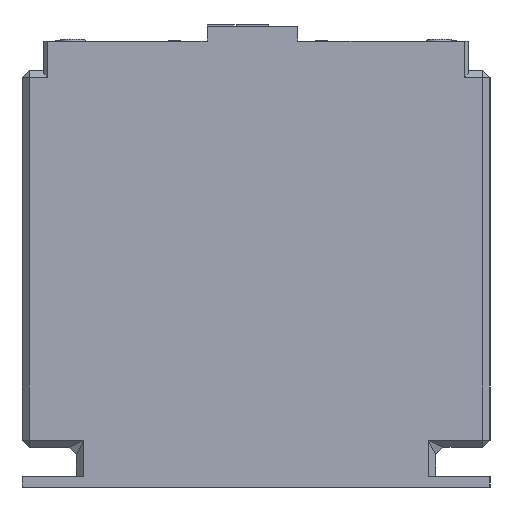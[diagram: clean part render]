
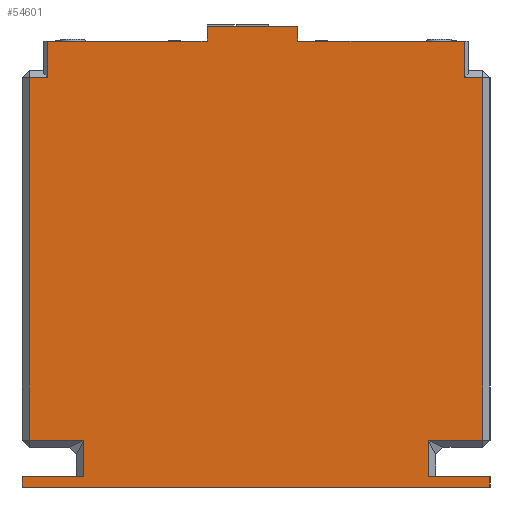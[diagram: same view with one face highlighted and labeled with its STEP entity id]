
A CAD part, left-side view. The second image highlights one B-rep face of the part: STEP entity #54601.
In plain terms, the highlighted planar face has unit normal (-1, 0, 0).
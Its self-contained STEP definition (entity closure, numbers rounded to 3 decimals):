
#6223=FACE_OUTER_BOUND('',#9419,.T.);
#9419=EDGE_LOOP('',(#46403,#46404,#46405,#46406,#46407,#46408,#46409,#46410,
#46411,#46412,#46413,#46414,#46415,#46416,#46417,#46418,#46419,#46420,#46421,
#46422));
#12658=LINE('',#82699,#18102);
#12832=LINE('',#83571,#18276);
#14602=LINE('',#94314,#20046);
#14614=LINE('',#94338,#20058);
#14615=LINE('',#94341,#20059);
#14616=LINE('',#94343,#20060);
#14617=LINE('',#94344,#20061);
#14618=LINE('',#94346,#20062);
#14619=LINE('',#94348,#20063);
#14620=LINE('',#94350,#20064);
#14621=LINE('',#94352,#20065);
#14622=LINE('',#94354,#20066);
#14623=LINE('',#94356,#20067);
#14624=LINE('',#94358,#20068);
#14625=LINE('',#94360,#20069);
#14626=LINE('',#94362,#20070);
#14627=LINE('',#94364,#20071);
#14628=LINE('',#94366,#20072);
#14629=LINE('',#94368,#20073);
#14630=LINE('',#94369,#20074);
#18102=VECTOR('',#62880,10.);
#18276=VECTOR('',#63142,10.);
#20046=VECTOR('',#66162,10.);
#20058=VECTOR('',#66182,10.);
#20059=VECTOR('',#66185,10.);
#20060=VECTOR('',#66186,10.);
#20061=VECTOR('',#66187,10.);
#20062=VECTOR('',#66188,10.);
#20063=VECTOR('',#66189,10.);
#20064=VECTOR('',#66190,10.);
#20065=VECTOR('',#66191,10.);
#20066=VECTOR('',#66192,10.);
#20067=VECTOR('',#66193,10.);
#20068=VECTOR('',#66194,10.);
#20069=VECTOR('',#66195,10.);
#20070=VECTOR('',#66196,10.);
#20071=VECTOR('',#66197,10.);
#20072=VECTOR('',#66198,10.);
#20073=VECTOR('',#66199,10.);
#20074=VECTOR('',#66200,10.);
#23408=VERTEX_POINT('',#82696);
#23409=VERTEX_POINT('',#82698);
#23686=VERTEX_POINT('',#83568);
#23687=VERTEX_POINT('',#83570);
#25218=VERTEX_POINT('',#94313);
#25226=VERTEX_POINT('',#94336);
#25227=VERTEX_POINT('',#94340);
#25228=VERTEX_POINT('',#94342);
#25229=VERTEX_POINT('',#94345);
#25230=VERTEX_POINT('',#94347);
#25231=VERTEX_POINT('',#94349);
#25232=VERTEX_POINT('',#94351);
#25233=VERTEX_POINT('',#94353);
#25234=VERTEX_POINT('',#94355);
#25235=VERTEX_POINT('',#94357);
#25236=VERTEX_POINT('',#94359);
#25237=VERTEX_POINT('',#94361);
#25238=VERTEX_POINT('',#94363);
#25239=VERTEX_POINT('',#94365);
#25240=VERTEX_POINT('',#94367);
#29822=EDGE_CURVE('',#23409,#23408,#12658,.T.);
#30121=EDGE_CURVE('',#23687,#23686,#12832,.T.);
#32559=EDGE_CURVE('',#23409,#25218,#14602,.T.);
#32571=EDGE_CURVE('',#25226,#23686,#14614,.T.);
#32572=EDGE_CURVE('',#25227,#23408,#14615,.T.);
#32573=EDGE_CURVE('',#25228,#25227,#14616,.T.);
#32574=EDGE_CURVE('',#25228,#23687,#14617,.T.);
#32575=EDGE_CURVE('',#25229,#25226,#14618,.T.);
#32576=EDGE_CURVE('',#25230,#25229,#14619,.T.);
#32577=EDGE_CURVE('',#25231,#25230,#14620,.T.);
#32578=EDGE_CURVE('',#25232,#25231,#14621,.T.);
#32579=EDGE_CURVE('',#25232,#25233,#14622,.T.);
#32580=EDGE_CURVE('',#25234,#25233,#14623,.T.);
#32581=EDGE_CURVE('',#25234,#25235,#14624,.T.);
#32582=EDGE_CURVE('',#25235,#25236,#14625,.T.);
#32583=EDGE_CURVE('',#25236,#25237,#14626,.T.);
#32584=EDGE_CURVE('',#25238,#25237,#14627,.T.);
#32585=EDGE_CURVE('',#25239,#25238,#14628,.T.);
#32586=EDGE_CURVE('',#25240,#25239,#14629,.T.);
#32587=EDGE_CURVE('',#25218,#25240,#14630,.T.);
#46403=ORIENTED_EDGE('',*,*,#32559,.F.);
#46404=ORIENTED_EDGE('',*,*,#29822,.T.);
#46405=ORIENTED_EDGE('',*,*,#32572,.F.);
#46406=ORIENTED_EDGE('',*,*,#32573,.F.);
#46407=ORIENTED_EDGE('',*,*,#32574,.T.);
#46408=ORIENTED_EDGE('',*,*,#30121,.T.);
#46409=ORIENTED_EDGE('',*,*,#32571,.F.);
#46410=ORIENTED_EDGE('',*,*,#32575,.F.);
#46411=ORIENTED_EDGE('',*,*,#32576,.F.);
#46412=ORIENTED_EDGE('',*,*,#32577,.F.);
#46413=ORIENTED_EDGE('',*,*,#32578,.F.);
#46414=ORIENTED_EDGE('',*,*,#32579,.T.);
#46415=ORIENTED_EDGE('',*,*,#32580,.F.);
#46416=ORIENTED_EDGE('',*,*,#32581,.T.);
#46417=ORIENTED_EDGE('',*,*,#32582,.T.);
#46418=ORIENTED_EDGE('',*,*,#32583,.T.);
#46419=ORIENTED_EDGE('',*,*,#32584,.F.);
#46420=ORIENTED_EDGE('',*,*,#32585,.F.);
#46421=ORIENTED_EDGE('',*,*,#32586,.F.);
#46422=ORIENTED_EDGE('',*,*,#32587,.F.);
#51697=PLANE('',#57134);
#54601=ADVANCED_FACE('',(#6223),#51697,.T.);
#57134=AXIS2_PLACEMENT_3D('',#94339,#66183,#66184);
#62880=DIRECTION('',(0.,1.,0.));
#63142=DIRECTION('',(0.,1.,0.));
#66162=DIRECTION('',(0.,0.,-1.));
#66182=DIRECTION('',(0.,0.,1.));
#66183=DIRECTION('center_axis',(-1.,0.,0.));
#66184=DIRECTION('ref_axis',(0.,-1.,0.));
#66185=DIRECTION('',(0.,0.,-1.));
#66186=DIRECTION('',(0.,-1.,0.));
#66187=DIRECTION('',(0.,0.,-1.));
#66188=DIRECTION('',(0.,-1.,0.));
#66189=DIRECTION('',(0.,0.,1.));
#66190=DIRECTION('',(0.,1.,0.));
#66191=DIRECTION('',(0.,0.,1.));
#66192=DIRECTION('',(0.,1.,0.));
#66193=DIRECTION('',(0.,0.,1.));
#66194=DIRECTION('',(0.,-1.,0.));
#66195=DIRECTION('',(0.,0.,1.));
#66196=DIRECTION('',(0.,1.,0.));
#66197=DIRECTION('',(0.,0.,-1.));
#66198=DIRECTION('',(0.,1.,0.));
#66199=DIRECTION('',(0.,0.,-1.));
#66200=DIRECTION('',(0.,-1.,0.));
#82696=CARTESIAN_POINT('',(0.,53.,123.));
#82698=CARTESIAN_POINT('',(0.,7.,123.));
#82699=CARTESIAN_POINT('',(0.,96.75,123.));
#83568=CARTESIAN_POINT('',(0.,122.,123.));
#83570=CARTESIAN_POINT('',(0.,78.,123.));
#83571=CARTESIAN_POINT('',(0.,96.75,123.));
#94313=CARTESIAN_POINT('',(0.,7.,113.));
#94314=CARTESIAN_POINT('',(0.,7.,63.5));
#94336=CARTESIAN_POINT('',(0.,122.,113.));
#94338=CARTESIAN_POINT('',(0.,122.,63.5));
#94339=CARTESIAN_POINT('Origin',(0.,129.,0.));
#94340=CARTESIAN_POINT('',(0.,53.,127.));
#94341=CARTESIAN_POINT('',(0.,53.,127.));
#94342=CARTESIAN_POINT('',(0.,78.,127.));
#94343=CARTESIAN_POINT('',(0.,78.,127.));
#94344=CARTESIAN_POINT('',(0.,78.,127.));
#94345=CARTESIAN_POINT('',(0.,127.,113.));
#94346=CARTESIAN_POINT('',(0.,127.304,113.));
#94347=CARTESIAN_POINT('',(0.,127.,13.));
#94348=CARTESIAN_POINT('',(0.,127.,0.));
#94349=CARTESIAN_POINT('',(0.,112.,13.));
#94350=CARTESIAN_POINT('',(0.,129.,13.));
#94351=CARTESIAN_POINT('',(0.,112.,3.));
#94352=CARTESIAN_POINT('',(0.,112.,3.5));
#94353=CARTESIAN_POINT('',(0.,129.,3.));
#94354=CARTESIAN_POINT('',(0.,129.,3.));
#94355=CARTESIAN_POINT('',(0.,129.,0.));
#94356=CARTESIAN_POINT('',(0.,129.,0.));
#94357=CARTESIAN_POINT('',(0.,0.,0.));
#94358=CARTESIAN_POINT('',(0.,129.,0.));
#94359=CARTESIAN_POINT('',(0.,0.,3.));
#94360=CARTESIAN_POINT('',(0.,0.,0.));
#94361=CARTESIAN_POINT('',(0.,17.,3.));
#94362=CARTESIAN_POINT('',(0.,64.5,3.));
#94363=CARTESIAN_POINT('',(0.,17.,13.));
#94364=CARTESIAN_POINT('',(0.,17.,3.5));
#94365=CARTESIAN_POINT('',(0.,2.,13.));
#94366=CARTESIAN_POINT('',(0.,64.5,13.));
#94367=CARTESIAN_POINT('',(0.,2.,113.));
#94368=CARTESIAN_POINT('',(0.,2.,0.));
#94369=CARTESIAN_POINT('',(0.,66.196,113.));
